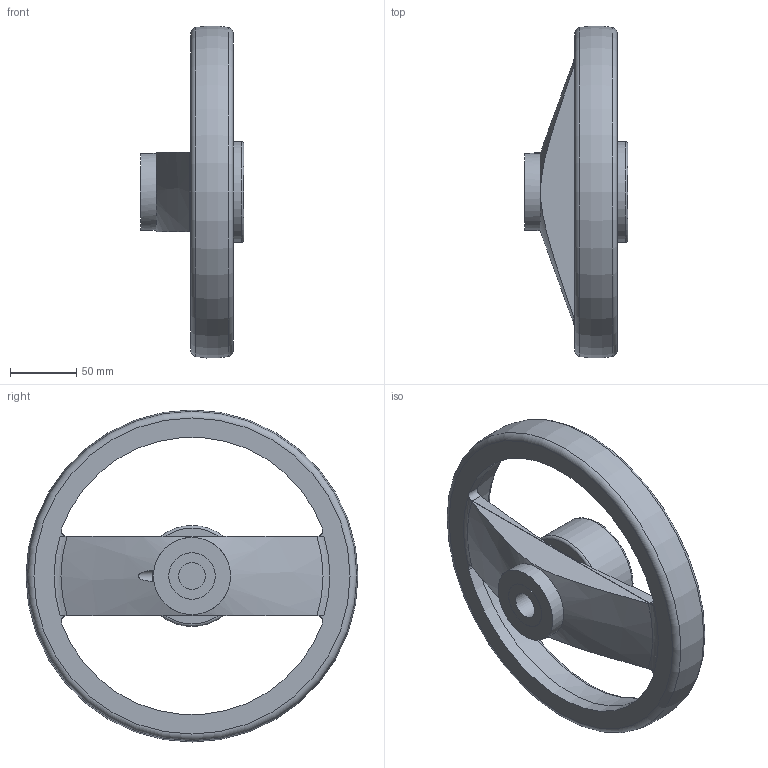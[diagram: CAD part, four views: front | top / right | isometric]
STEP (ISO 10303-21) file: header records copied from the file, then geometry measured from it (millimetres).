
FILE_DESCRIPTION( ( 'STEP AP203' ), '1' );
FILE_NAME( 'C:/Temp/Ganter_Step_05_03_2020/data/1_4/gn_522_8/gn_522_8_b/gn_522_8_b_a/Spoked handwheel GN 522.8-250-B20-A.stp', '2020-03-05T10:53:29', ( 'License CC BY-ND 4.0' ), ( 'CADENAS' ), ' ', 'PARTsolutions', ' ' );
FILE_SCHEMA( ( 'CONFIG_CONTROL_DESIGN' ) );
Length unit declared in the file: millimetre
Products named in the file (1): _Spoked handwheel GN 522.8-250-B20-A
Bounding box: 78 x 249.75 x 249.75 mm (x, y, z)
Volume: 743579 mm3; surface area: 129192.5 mm2
Topology: 1 solids, 1 shells, 61 faces, 136 edges, 88 vertices
Faces by surface type: plane 27, cylinder 20, torus 8, cone 6
Full cylindrical faces by diameter (mm): 6 x4, 8 x1, 20 x1, 35 x1, 58 x1, 67 x1, 68.8 x1, 76 x1
Entity records: 1908 total; most frequent: CARTESIAN_POINT 631, DIRECTION 260, ORIENTED_EDGE 210, AXIS2_PLACEMENT_3D 115, EDGE_CURVE 105, EDGE_LOOP 100, VERTEX_POINT 80, FACE_OUTER_BOUND 78
